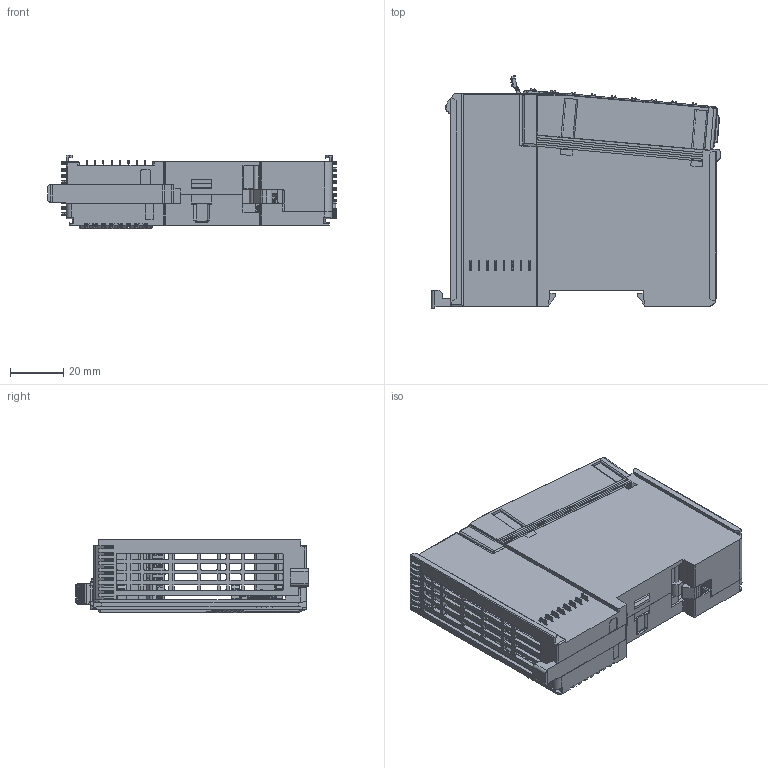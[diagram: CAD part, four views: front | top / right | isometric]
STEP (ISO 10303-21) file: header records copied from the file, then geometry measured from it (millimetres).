
FILE_DESCRIPTION((''),'2;1');
FILE_NAME('18_1_0001_ASM','2025-05-20T16:23:19',('admin'),(''),'CREO PARAMETRIC BY PTC INC, 2019164','CREO PARAMETRIC BY PTC INC, 2019164','');
FILE_SCHEMA(('CONFIG_CONTROL_DESIGN'));
Products named in the file (1): 18_1_0001_ASM
Bounding box: 108.65 x 87.38 x 27.7 mm (x, y, z)
Surface area: 43428.3 mm2 (no closed solid volume)
Topology: 0 solids, 22 shells, 6356 faces, 19949 edges, 13453 vertices
Faces by surface type: plane 3575, cylinder 2021, bspline 395, cone 227, torus 87, sphere 38, extrusion 13
Entity records: 241124 total; most frequent: CARTESIAN_POINT 67207, ORIENTED_EDGE 36756, DIRECTION 34029, EDGE_CURVE 19905, VECTOR 13659, LINE 13646, VERTEX_POINT 13453, AXIS2_PLACEMENT_3D 10185
